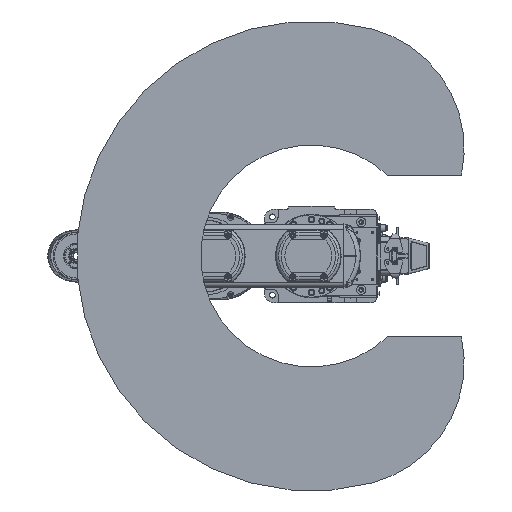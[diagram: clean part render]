
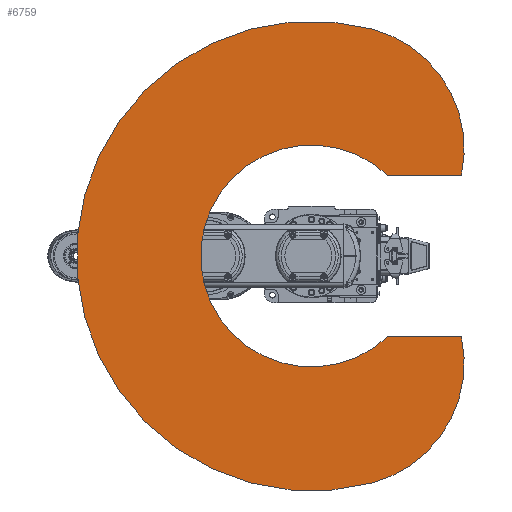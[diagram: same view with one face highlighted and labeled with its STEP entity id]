
A CAD part, front view. The second image highlights one B-rep face of the part: STEP entity #6759.
In plain terms, the highlighted planar face has unit normal (0, -1, 0).
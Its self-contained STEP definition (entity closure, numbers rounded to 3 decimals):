
#6759 = ADVANCED_FACE( '', ( #15705 ), #15706, .F. );
#15705 = FACE_OUTER_BOUND( '', #27229, .T. );
#15706 = PLANE( '', #27230 );
#27229 = EDGE_LOOP( '', ( #46305, #46306, #46307, #46308, #46309, #46310 ) );
#27230 = AXIS2_PLACEMENT_3D( '', #46311, #46312, #46313 );
#46305 = ORIENTED_EDGE( '', *, *, #66000, .T. );
#46306 = ORIENTED_EDGE( '', *, *, #66001, .F. );
#46307 = ORIENTED_EDGE( '', *, *, #63933, .F. );
#46308 = ORIENTED_EDGE( '', *, *, #66002, .F. );
#46309 = ORIENTED_EDGE( '', *, *, #66003, .T. );
#46310 = ORIENTED_EDGE( '', *, *, #66004, .F. );
#46311 = CARTESIAN_POINT( '', ( 102.614, 0., 27.495 ) );
#46312 = DIRECTION( '', ( 0., 1., 0. ) );
#46313 = DIRECTION( '', ( 0., 0., 1. ) );
#63933 = EDGE_CURVE( '', #76879, #76880, #76881, .T. );
#66000 = EDGE_CURVE( '', #79942, #79943, #79944, .T. );
#66001 = EDGE_CURVE( '', #76880, #79943, #79945, .T. );
#66002 = EDGE_CURVE( '', #79946, #76879, #79947, .T. );
#66003 = EDGE_CURVE( '', #79946, #79948, #79949, .T. );
#66004 = EDGE_CURVE( '', #79942, #79948, #79950, .F. );
#76879 = VERTEX_POINT( '', #96397 );
#76880 = VERTEX_POINT( '', #96398 );
#76881 = CIRCLE( '', #96399, 450. );
#79942 = VERTEX_POINT( '', #101985 );
#79943 = VERTEX_POINT( '', #101986 );
#79944 = LINE( '', #101987, #101988 );
#79945 = CIRCLE( '', #101989, 237.533 );
#79946 = VERTEX_POINT( '', #101990 );
#79947 = CIRCLE( '', #101991, 237.533 );
#79948 = VERTEX_POINT( '', #101992 );
#79949 = LINE( '', #101993, #101994 );
#79950 = CIRCLE( '', #101995, 212.47 );
#96397 = CARTESIAN_POINT( '', ( 434.667, 0., 116.469 ) );
#96398 = CARTESIAN_POINT( '', ( -434.667, 0., 116.469 ) );
#96399 = AXIS2_PLACEMENT_3D( '', #114800, #114801, #114802 );
#101985 = CARTESIAN_POINT( '', ( -155., 0., 145.322 ) );
#101986 = CARTESIAN_POINT( '', ( -155., 0., 287.152 ) );
#101987 = CARTESIAN_POINT( '', ( -155., 0., 0. ) );
#101988 = VECTOR( '', #117154, 1000. );
#101989 = AXIS2_PLACEMENT_3D( '', #117155, #117156, #117157 );
#101990 = CARTESIAN_POINT( '', ( 155., 0., 287.152 ) );
#101991 = AXIS2_PLACEMENT_3D( '', #117158, #117159, #117160 );
#101992 = CARTESIAN_POINT( '', ( 155., 0., 145.322 ) );
#101993 = CARTESIAN_POINT( '', ( 155., 0., 305. ) );
#101994 = VECTOR( '', #117161, 1000. );
#101995 = AXIS2_PLACEMENT_3D( '', #117162, #117163, #117164 );
#114800 = CARTESIAN_POINT( '', ( 0., 0., 0. ) );
#114801 = DIRECTION( '', ( 0., 1., 0. ) );
#114802 = DIRECTION( '', ( 1., 0., 0. ) );
#117154 = DIRECTION( '', ( 0., 0., 1. ) );
#117155 = CARTESIAN_POINT( '', ( -205.228, 0., 54.991 ) );
#117156 = DIRECTION( '', ( 0., 1., 0. ) );
#117157 = DIRECTION( '', ( 1., 0., 0. ) );
#117158 = CARTESIAN_POINT( '', ( 205.228, 0., 54.991 ) );
#117159 = DIRECTION( '', ( 0., 1., 0. ) );
#117160 = DIRECTION( '', ( 1., 0., 0. ) );
#117161 = DIRECTION( '', ( 0., 0., -1. ) );
#117162 = CARTESIAN_POINT( '', ( 0., 0., 0. ) );
#117163 = DIRECTION( '', ( 0., 1., 0. ) );
#117164 = DIRECTION( '', ( 0., 0., 1. ) );
